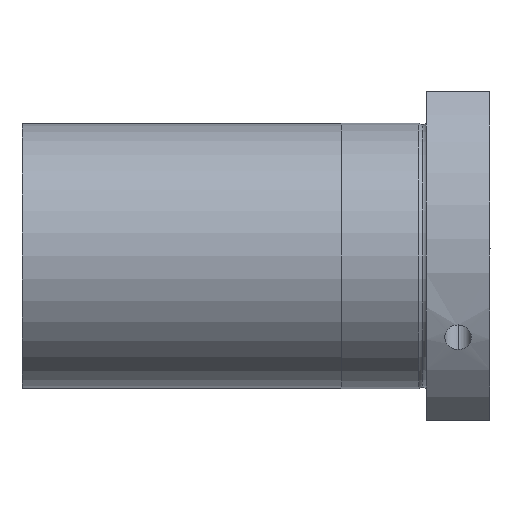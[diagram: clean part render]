
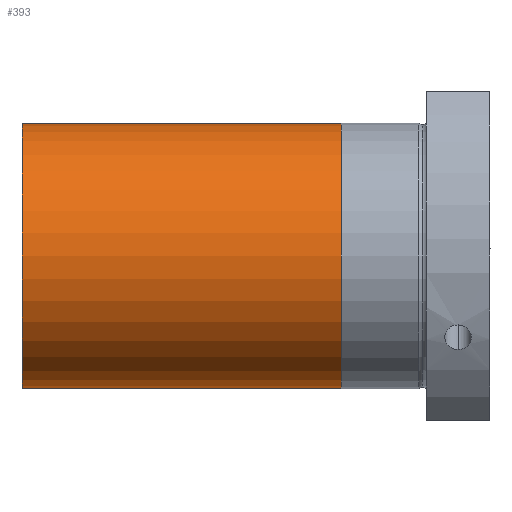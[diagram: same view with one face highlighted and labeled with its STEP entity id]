
A CAD part, front view. The second image highlights one B-rep face of the part: STEP entity #393.
In plain terms, the highlighted cylindrical face has radius 24.9 mm (diameter 49.8 mm), a partial arc.
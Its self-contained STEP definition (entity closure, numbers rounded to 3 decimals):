
#76 = DIRECTION ( 'NONE',  ( 0., 0., 1. ) ) ;
#393 = ADVANCED_FACE ( 'NONE', ( #2544 ), #1173, .T. ) ;
#406 = EDGE_LOOP ( 'NONE', ( #1121, #481, #967, #1233 ) ) ;
#481 = ORIENTED_EDGE ( 'NONE', *, *, #941, .T. ) ;
#513 = DIRECTION ( 'NONE',  ( -1., 0., 0. ) ) ;
#678 = CARTESIAN_POINT ( 'NONE',  ( -47., 0., 0. ) ) ;
#800 = VERTEX_POINT ( 'NONE', #1292 ) ;
#813 = DIRECTION ( 'NONE',  ( -1., 0., 0. ) ) ;
#835 = CARTESIAN_POINT ( 'NONE',  ( -47., 0., -24.9 ) ) ;
#924 = DIRECTION ( 'NONE',  ( 0., 0., 1. ) ) ;
#939 = VECTOR ( 'NONE', #513, 1000. ) ;
#941 = EDGE_CURVE ( 'NONE', #800, #1712, #2791, .T. ) ;
#967 = ORIENTED_EDGE ( 'NONE', *, *, #2598, .T. ) ;
#1121 = ORIENTED_EDGE ( 'NONE', *, *, #1914, .F. ) ;
#1173 = CYLINDRICAL_SURFACE ( 'NONE', #3080, 24.9 ) ;
#1233 = ORIENTED_EDGE ( 'NONE', *, *, #1341, .F. ) ;
#1292 = CARTESIAN_POINT ( 'NONE',  ( 13., 0., -24.9 ) ) ;
#1341 = EDGE_CURVE ( 'NONE', #2677, #2582, #2461, .T. ) ;
#1371 = LINE ( 'NONE', #2327, #2142 ) ;
#1565 = DIRECTION ( 'NONE',  ( -1., 0., 0. ) ) ;
#1598 = DIRECTION ( 'NONE',  ( 0., 0., 1. ) ) ;
#1712 = VERTEX_POINT ( 'NONE', #2732 ) ;
#1733 = AXIS2_PLACEMENT_3D ( 'NONE', #678, #2441, #924 ) ;
#1758 = CARTESIAN_POINT ( 'NONE',  ( -80.335, 0., 24.9 ) ) ;
#1819 = CARTESIAN_POINT ( 'NONE',  ( -47., 0., 24.9 ) ) ;
#1859 = DIRECTION ( 'NONE',  ( -1., 0., 0. ) ) ;
#1914 = EDGE_CURVE ( 'NONE', #800, #2677, #1371, .T. ) ;
#2067 = AXIS2_PLACEMENT_3D ( 'NONE', #3091, #1565, #76 ) ;
#2142 = VECTOR ( 'NONE', #813, 1000. ) ;
#2327 = CARTESIAN_POINT ( 'NONE',  ( -80.335, 0., -24.9 ) ) ;
#2383 = LINE ( 'NONE', #1758, #939 ) ;
#2441 = DIRECTION ( 'NONE',  ( -1., 0., 0. ) ) ;
#2461 = CIRCLE ( 'NONE', #1733, 24.9 ) ;
#2544 = FACE_OUTER_BOUND ( 'NONE', #406, .T. ) ;
#2582 = VERTEX_POINT ( 'NONE', #1819 ) ;
#2598 = EDGE_CURVE ( 'NONE', #1712, #2582, #2383, .T. ) ;
#2677 = VERTEX_POINT ( 'NONE', #835 ) ;
#2732 = CARTESIAN_POINT ( 'NONE',  ( 13., 0., 24.9 ) ) ;
#2791 = CIRCLE ( 'NONE', #2067, 24.9 ) ;
#3080 = AXIS2_PLACEMENT_3D ( 'NONE', #3136, #1859, #1598 ) ;
#3091 = CARTESIAN_POINT ( 'NONE',  ( 13., 0., 0. ) ) ;
#3136 = CARTESIAN_POINT ( 'NONE',  ( -80.335, 0., 0. ) ) ;
